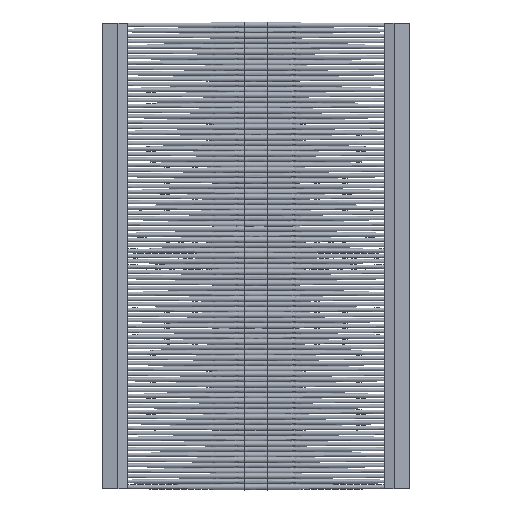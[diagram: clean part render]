
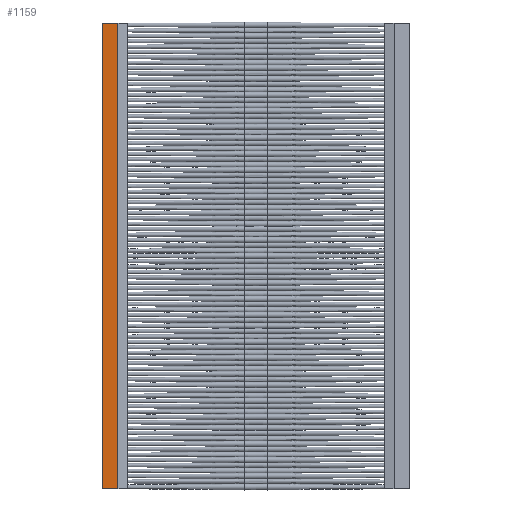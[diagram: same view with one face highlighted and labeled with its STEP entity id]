
A CAD part, front view. The second image highlights one B-rep face of the part: STEP entity #1159.
In plain terms, the highlighted planar face has unit normal (-0.09, -0.996, 0) as drawn and (0, -0.091, 0.996) by its records, which use the part's own axes.
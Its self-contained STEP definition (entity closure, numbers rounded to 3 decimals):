
#1133 = VERTEX_POINT('',#1134);
#1134 = CARTESIAN_POINT('',(-167.,-7.,4.75));
#1140 = EDGE_CURVE('',#1141,#1133,#1143,.T.);
#1141 = VERTEX_POINT('',#1142);
#1142 = CARTESIAN_POINT('',(167.,-7.,4.75));
#1143 = LINE('',#1144,#1145);
#1144 = CARTESIAN_POINT('',(167.,-7.,4.75));
#1145 = VECTOR('',#1146,1.);
#1146 = DIRECTION('',(-1.,-0.,-0.));
#1159 = ADVANCED_FACE('',(#1160),#1185,.F.);
#1160 = FACE_BOUND('',#1161,.T.);
#1161 = EDGE_LOOP('',(#1162,#1170,#1178,#1184));
#1162 = ORIENTED_EDGE('',*,*,#1163,.T.);
#1163 = EDGE_CURVE('',#1133,#1164,#1166,.T.);
#1164 = VERTEX_POINT('',#1165);
#1165 = CARTESIAN_POINT('',(-167.,-18.,3.75));
#1166 = LINE('',#1167,#1168);
#1167 = CARTESIAN_POINT('',(-167.,-7.349,4.718));
#1168 = VECTOR('',#1169,1.);
#1169 = DIRECTION('',(0.,-0.996,-0.091));
#1170 = ORIENTED_EDGE('',*,*,#1171,.F.);
#1171 = EDGE_CURVE('',#1172,#1164,#1174,.T.);
#1172 = VERTEX_POINT('',#1173);
#1173 = CARTESIAN_POINT('',(167.,-18.,3.75));
#1174 = LINE('',#1175,#1176);
#1175 = CARTESIAN_POINT('',(167.,-18.,3.75));
#1176 = VECTOR('',#1177,1.);
#1177 = DIRECTION('',(-1.,-0.,-0.));
#1178 = ORIENTED_EDGE('',*,*,#1179,.F.);
#1179 = EDGE_CURVE('',#1141,#1172,#1180,.T.);
#1180 = LINE('',#1181,#1182);
#1181 = CARTESIAN_POINT('',(167.,-7.349,4.718));
#1182 = VECTOR('',#1183,1.);
#1183 = DIRECTION('',(0.,-0.996,-0.091));
#1184 = ORIENTED_EDGE('',*,*,#1140,.T.);
#1185 = PLANE('',#1186);
#1186 = AXIS2_PLACEMENT_3D('',#1187,#1188,#1189);
#1187 = CARTESIAN_POINT('',(167.,-7.349,4.718));
#1188 = DIRECTION('',(0.,0.091,-0.996));
#1189 = DIRECTION('',(0.,0.996,0.091));
